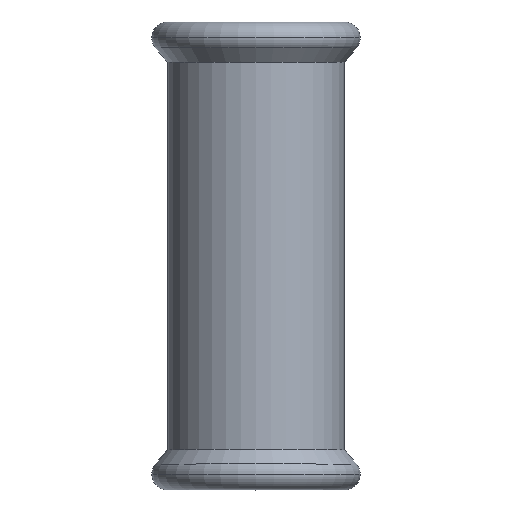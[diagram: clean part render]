
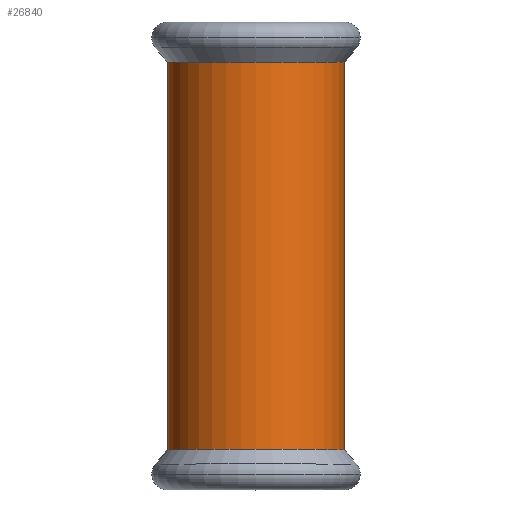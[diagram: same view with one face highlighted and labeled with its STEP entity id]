
A CAD part, top view. The second image highlights one B-rep face of the part: STEP entity #26840.
In plain terms, the highlighted cylindrical face has radius 22.7 mm (diameter 45.4 mm), a partial arc.
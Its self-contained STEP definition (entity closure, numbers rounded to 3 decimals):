
#2990=CARTESIAN_POINT('',(-27.454,219.789,0.));
#3000=VERTEX_POINT('',#2990);
#3180=CARTESIAN_POINT('',(-72.854,219.789,
0.));
#3190=VERTEX_POINT('',#3180);
#3220=CARTESIAN_POINT('',(-50.154,219.789,0.));
#3230=DIRECTION('',(0.,1.,0.));
#3240=DIRECTION('',(-1.,0.,0.));
#3250=AXIS2_PLACEMENT_3D('',#3220,#3230,#3240);
#3260=CIRCLE('',#3250,22.7);
#20520=CARTESIAN_POINT('',(-72.854,120.272,0.));
#20530=VERTEX_POINT('',#20520);
#20710=CARTESIAN_POINT('',(-27.454,120.272,
0.));
#20720=VERTEX_POINT('',#20710);
#20750=CARTESIAN_POINT('',(-50.154,120.272,0.));
#20760=DIRECTION('',(0.,-1.,0.));
#20770=DIRECTION('',(1.,0.,0.));
#20780=AXIS2_PLACEMENT_3D('',#20750,#20760,#20770);
#20790=CIRCLE('',#20780,22.7);
#20850=CARTESIAN_POINT('',(-50.154,130.675,0.));
#20860=DIRECTION('',(0.,1.,0.));
#20870=DIRECTION('',(1.,0.,0.));
#20880=AXIS2_PLACEMENT_3D('',#20850,#20860,#20870);
#20890=CYLINDRICAL_SURFACE('',#20880,22.7);
#20900=CARTESIAN_POINT('',(-72.854,130.675,
0.));
#20910=DIRECTION('',(0.,1.,0.));
#20920=VECTOR('',#20910,1.);
#20930=LINE('',#20900,#20920);
#20940=EDGE_CURVE('',#20530,#3190,#20930,.T.);
#20970=CARTESIAN_POINT('',(-27.454,130.675,0.));
#20980=DIRECTION('',(0.,1.,0.));
#20990=VECTOR('',#20980,1.);
#21000=LINE('',#20970,#20990);
#21010=EDGE_CURVE('',#20720,#3000,#21000,.T.);
#26130=EDGE_CURVE('',#3190,#3000,#3260,.T.);
#26220=EDGE_CURVE('',#20720,#20530,#20790,.T.);
#26780=ORIENTED_EDGE('',*,*,#26220,.F.);
#26790=ORIENTED_EDGE('',*,*,#20940,.F.);
#26800=ORIENTED_EDGE('',*,*,#26130,.F.);
#26810=ORIENTED_EDGE('',*,*,#21010,.T.);
#26820=EDGE_LOOP('',(#26810,#26800,#26790,#26780));
#26830=FACE_OUTER_BOUND('',#26820,.T.);
#26840=ADVANCED_FACE('',(#26830),#20890,.T.);
